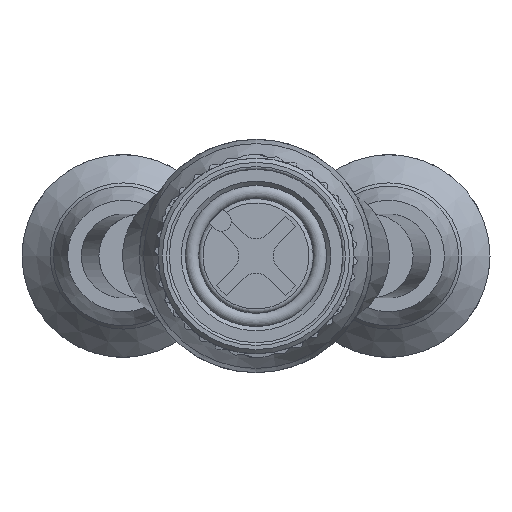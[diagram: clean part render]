
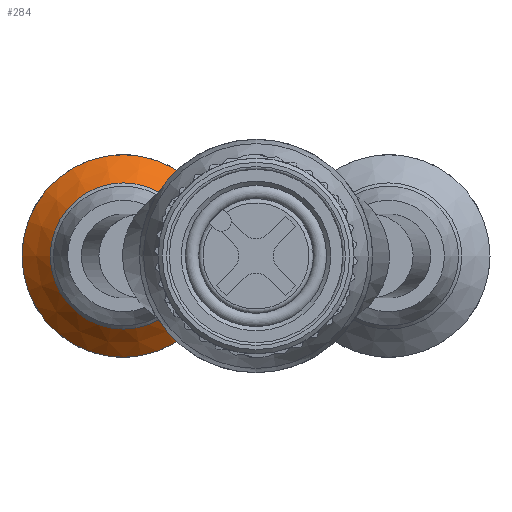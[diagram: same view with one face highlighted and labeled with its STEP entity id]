
A CAD part, left-side view. The second image highlights one B-rep face of the part: STEP entity #284.
In plain terms, the highlighted conical face has half-angle 45 degrees and reference radius 7.25 mm.
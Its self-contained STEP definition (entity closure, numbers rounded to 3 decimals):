
#284 = ADVANCED_FACE( '', ( #1110, #1111 ), #1112, .T. );
#1110 = FACE_BOUND( '', #2665, .T. );
#1111 = FACE_OUTER_BOUND( '', #2666, .T. );
#1112 = CONICAL_SURFACE( '', #2667, 7.25, 0.785 );
#2665 = EDGE_LOOP( '', ( #4771 ) );
#2666 = EDGE_LOOP( '', ( #4772 ) );
#2667 = AXIS2_PLACEMENT_3D( '', #4773, #4774, #4775 );
#4771 = ORIENTED_EDGE( '', *, *, #10641, .F. );
#4772 = ORIENTED_EDGE( '', *, *, #10642, .T. );
#4773 = CARTESIAN_POINT( '', ( 0., -30.5, 0. ) );
#4774 = DIRECTION( '', ( 0., 1., 0. ) );
#4775 = DIRECTION( '', ( 0., 0., 1. ) );
#10641 = EDGE_CURVE( '', #12889, #12889, #12890, .T. );
#10642 = EDGE_CURVE( '', #12891, #12891, #12892, .T. );
#12889 = VERTEX_POINT( '', #16758 );
#12890 = CIRCLE( '', #16759, 5.232 );
#12891 = VERTEX_POINT( '', #16760 );
#12892 = CIRCLE( '', #16761, 7.25 );
#16758 = CARTESIAN_POINT( '', ( 0., -32.518, -5.232 ) );
#16759 = AXIS2_PLACEMENT_3D( '', #22630, #22631, #22632 );
#16760 = CARTESIAN_POINT( '', ( 0., -30.5, -7.25 ) );
#16761 = AXIS2_PLACEMENT_3D( '', #22633, #22634, #22635 );
#22630 = CARTESIAN_POINT( '', ( 0., -32.518, 0. ) );
#22631 = DIRECTION( '', ( 0., -1., 0. ) );
#22632 = DIRECTION( '', ( 0., 0., -1. ) );
#22633 = CARTESIAN_POINT( '', ( 0., -30.5, 0. ) );
#22634 = DIRECTION( '', ( 0., -1., 0. ) );
#22635 = DIRECTION( '', ( 0., 0., -1. ) );
